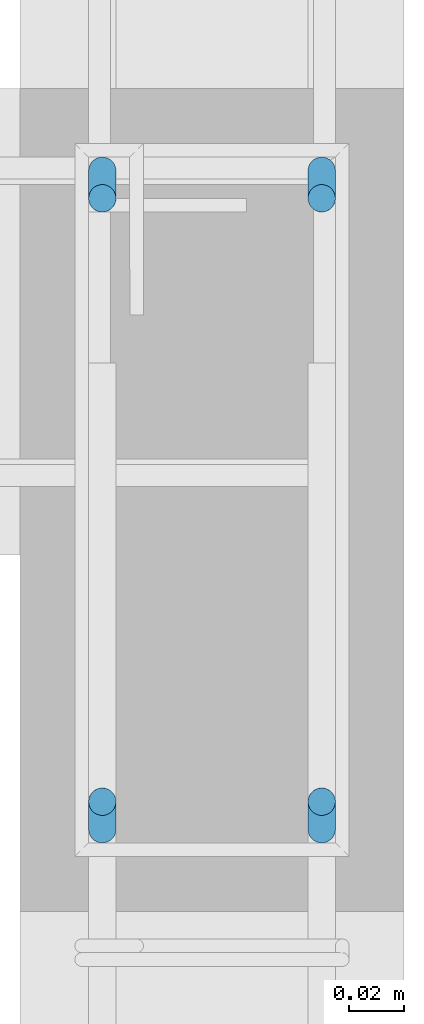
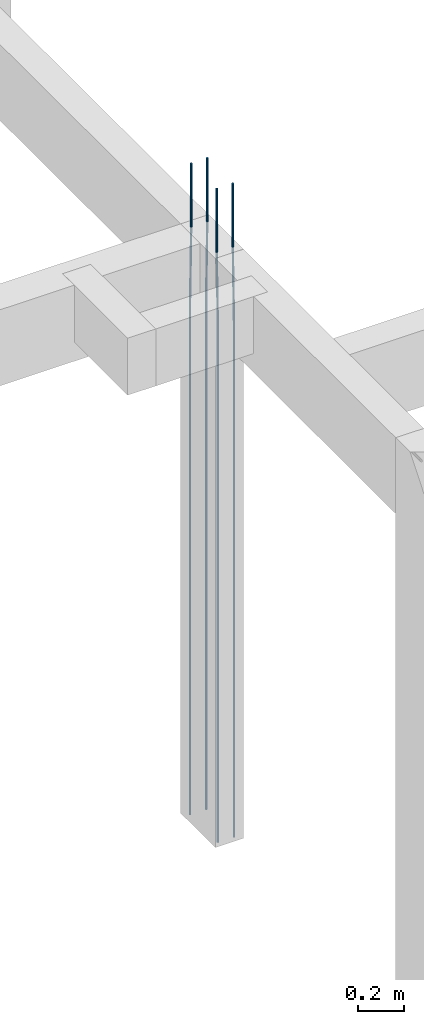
# One storey, part 66 of 236: 4 reinforcing bars.
"""IFC4 building model written with IfcOpenShell, lengths in centimetres."""

from ifc_helpers import new_model, entity, si_unit, derived_unit, frame, origin_with_axes, place, context, project, spatial, element, save


model = new_model("IFC4")

# Units and contexts
model_context = context("Model", 3, precision=1e-05, world=origin_with_axes(), identifier="Body")
ifc_project = project(units=[si_unit("LENGTHUNIT", "METRE", prefix="CENTI"), si_unit("VOLUMEUNIT", "CUBIC_METRE"), si_unit("AREAUNIT", "SQUARE_METRE"), si_unit("POWERUNIT", "WATT"), si_unit("LUMINOUSFLUXUNIT", "LUMEN"), si_unit("ELECTRICCURRENTUNIT", "AMPERE"), si_unit("PRESSUREUNIT", "PASCAL", prefix="KILO"), si_unit("MASSUNIT", "GRAM", prefix="KILO"), si_unit("PLANEANGLEUNIT", "RADIAN"), derived_unit("VOLUMETRICFLOWRATEUNIT", [(si_unit("LENGTHUNIT", "METRE"), 3), (si_unit("TIMEUNIT", "SECOND"), -1)])], contexts=[model_context])

# Site, building, storey
site_placement = place(None, frame((-4000.0, 0.0, 0.0), z_axis=(0.0, 0.0, 1.0), x_axis=(1.0, 0.0, 0.0)))
site = spatial("IfcSite", under=ifc_project, at=site_placement, Name="PADRÃO")
building_placement = place(site_placement, frame((0.0, 0.0, -14.0)))
building = spatial("IfcBuilding", under=site, at=building_placement, Name="CRECHE PRÉ-ESCOLA TIPO 2")
placement_1 = place(building_placement, origin_with_axes())
placement_2 = place(placement_1, frame((0.0, 0.0, 30.0), z_axis=(0.0, 0.0, 1.0), x_axis=(1.0, 0.0, 0.0)))
storey_placement = place(placement_2, frame((0.0, 0.0, 310.0), z_axis=(0.0, 0.0, 1.0), x_axis=(1.0, 0.0, 0.0)))
storey = spatial("IfcBuildingStorey", under=building, at=storey_placement, Name="TERREO", CompositionType="ELEMENT", Elevation=326.0)

# Reinforcing bars
reinforcing_bar_1_placement = place(storey_placement, frame((499.69, 2688.51, 33.3573001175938), z_axis=(0.0, 0.0, 1.0), x_axis=(1.0, 0.0, 0.0)))
element("IfcReinforcingBar", 1, at=reinforcing_bar_1_placement, inside=storey, Name="P66 - Longitudinal", BarLength=0.0, CrossSectionArea=7.853981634e-05, NominalDiameter=1.0, PredefinedType="MAIN", context=model_context, shape_type="AdvancedSweptSolid", body=[
    entity("IfcSweptDiskSolid", entity("IfcCompositeCurve", [entity("IfcCompositeCurveSegment", "CONTINUOUS", True, entity("IfcPolyline", [entity("IfcCartesianPoint", [0.0, 0.5, -343.357300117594]), entity("IfcCartesianPoint", [0.0, 0.5, -73.3573001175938])])), entity("IfcCompositeCurveSegment", "CONTINUOUS", True, entity("IfcPolyline", [entity("IfcCartesianPoint", [0.0, 0.5, -73.3573001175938]), entity("IfcCartesianPoint", [0.0, -0.5, -33.3573001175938])])), entity("IfcCompositeCurveSegment", "CONTINUOUS", True, entity("IfcPolyline", [entity("IfcCartesianPoint", [0.0, -0.5, -33.3573001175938]), entity("IfcCartesianPoint", [0.0, -0.5, 0.0])]))], False), 0.5),
])
reinforcing_bar_2_placement = place(storey_placement, frame((499.69, 2665.51, 33.3573001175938), z_axis=(0.0, 0.0, 1.0), x_axis=(1.0, 0.0, 0.0)))
element("IfcReinforcingBar", 2, at=reinforcing_bar_2_placement, inside=storey, Name="P66 - Longitudinal", BarLength=0.0, CrossSectionArea=7.853981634e-05, NominalDiameter=1.0, PredefinedType="MAIN", context=model_context, shape_type="AdvancedSweptSolid", body=[
    entity("IfcSweptDiskSolid", entity("IfcCompositeCurve", [entity("IfcCompositeCurveSegment", "CONTINUOUS", True, entity("IfcPolyline", [entity("IfcCartesianPoint", [0.0, -0.5, -343.357300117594]), entity("IfcCartesianPoint", [0.0, -0.5, -73.3573001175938])])), entity("IfcCompositeCurveSegment", "CONTINUOUS", True, entity("IfcPolyline", [entity("IfcCartesianPoint", [0.0, -0.5, -73.3573001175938]), entity("IfcCartesianPoint", [0.0, 0.5, -33.3573001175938])])), entity("IfcCompositeCurveSegment", "CONTINUOUS", True, entity("IfcPolyline", [entity("IfcCartesianPoint", [0.0, 0.5, -33.3573001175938]), entity("IfcCartesianPoint", [0.0, 0.5, 0.0])]))], False), 0.5),
])
reinforcing_bar_3_placement = place(storey_placement, frame((507.69, 2688.51, 33.3573001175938), z_axis=(0.0, 0.0, 1.0), x_axis=(1.0, 0.0, 0.0)))
element("IfcReinforcingBar", 3, at=reinforcing_bar_3_placement, inside=storey, Name="P66 - Longitudinal", BarLength=0.0, CrossSectionArea=7.853981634e-05, NominalDiameter=1.0, PredefinedType="MAIN", context=model_context, shape_type="AdvancedSweptSolid", body=[
    entity("IfcSweptDiskSolid", entity("IfcCompositeCurve", [entity("IfcCompositeCurveSegment", "CONTINUOUS", True, entity("IfcPolyline", [entity("IfcCartesianPoint", [0.0, 0.5, -343.357300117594]), entity("IfcCartesianPoint", [0.0, 0.5, -73.3573001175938])])), entity("IfcCompositeCurveSegment", "CONTINUOUS", True, entity("IfcPolyline", [entity("IfcCartesianPoint", [0.0, 0.5, -73.3573001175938]), entity("IfcCartesianPoint", [0.0, -0.5, -33.3573001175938])])), entity("IfcCompositeCurveSegment", "CONTINUOUS", True, entity("IfcPolyline", [entity("IfcCartesianPoint", [0.0, -0.5, -33.3573001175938]), entity("IfcCartesianPoint", [0.0, -0.5, 0.0])]))], False), 0.5),
])
reinforcing_bar_4_placement = place(storey_placement, frame((507.69, 2665.51, 33.3573001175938), z_axis=(0.0, 0.0, 1.0), x_axis=(1.0, 0.0, 0.0)))
element("IfcReinforcingBar", 4, at=reinforcing_bar_4_placement, inside=storey, Name="P66 - Longitudinal", BarLength=0.0, CrossSectionArea=7.853981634e-05, NominalDiameter=1.0, PredefinedType="MAIN", context=model_context, shape_type="AdvancedSweptSolid", body=[
    entity("IfcSweptDiskSolid", entity("IfcCompositeCurve", [entity("IfcCompositeCurveSegment", "CONTINUOUS", True, entity("IfcPolyline", [entity("IfcCartesianPoint", [0.0, -0.5, -343.357300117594]), entity("IfcCartesianPoint", [0.0, -0.5, -73.3573001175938])])), entity("IfcCompositeCurveSegment", "CONTINUOUS", True, entity("IfcPolyline", [entity("IfcCartesianPoint", [0.0, -0.5, -73.3573001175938]), entity("IfcCartesianPoint", [0.0, 0.5, -33.3573001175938])])), entity("IfcCompositeCurveSegment", "CONTINUOUS", True, entity("IfcPolyline", [entity("IfcCartesianPoint", [0.0, 0.5, -33.3573001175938]), entity("IfcCartesianPoint", [0.0, 0.5, 0.0])]))], False), 0.5),
])

save(model, "model.ifc")
